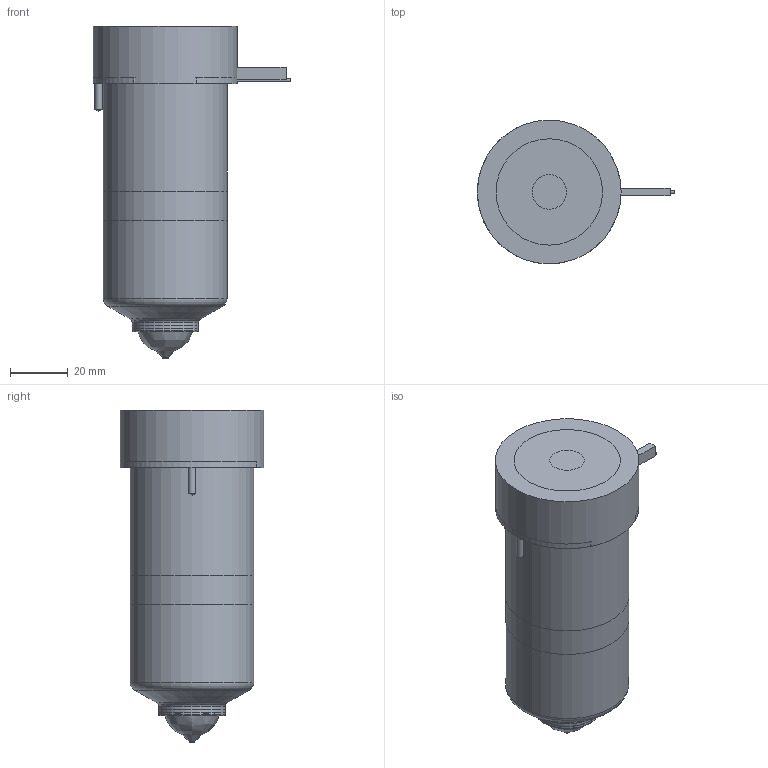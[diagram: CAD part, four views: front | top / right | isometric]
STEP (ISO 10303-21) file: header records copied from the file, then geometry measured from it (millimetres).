
FILE_DESCRIPTION(/* description */ (''),/* implementation_level */ '2;1');
FILE_NAME(/* name */ 'BXOT27095_200C_b',/* time_stamp */ '2007-01-18T08:46:50+13:00',/* author */ (''),/* organization */ (''),/* preprocessor_version */ 'ST-DEVELOPER v9',/* originating_system */ 'UGS - NX 4.0',/* authorisation */ '');
FILE_SCHEMA (('CONFIG_CONTROL_DESIGN'));
Length unit declared in the file: millimetre
Products named in the file (1): BXOT27095_200C_b
Bounding box: 68.6 x 50 x 115.45 mm (x, y, z)
Volume: 299160.3 mm3; surface area: 41496.8 mm2
Topology: 6 solids, 6 shells, 83 faces, 166 edges, 106 vertices
Faces by surface type: plane 34, cylinder 25, cone 12, torus 9, bspline 3
Full cylindrical faces by diameter (mm): 1 x3, 2 x1, 2.5 x2, 12 x1, 16.8 x1, 17 x1, 22.61 x1, 23.01 x2, 27.5 x1, 38.1 x1, 43 x2, 50 x1
Entity records: 2213 total; most frequent: CARTESIAN_POINT 562, DIRECTION 344, ORIENTED_EDGE 248, AXIS2_PLACEMENT_3D 153, EDGE_LOOP 128, EDGE_CURVE 124, VERTEX_POINT 99, ADVANCED_FACE 83
